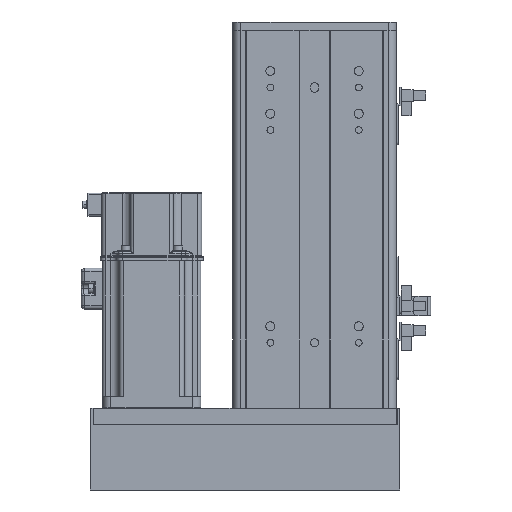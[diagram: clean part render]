
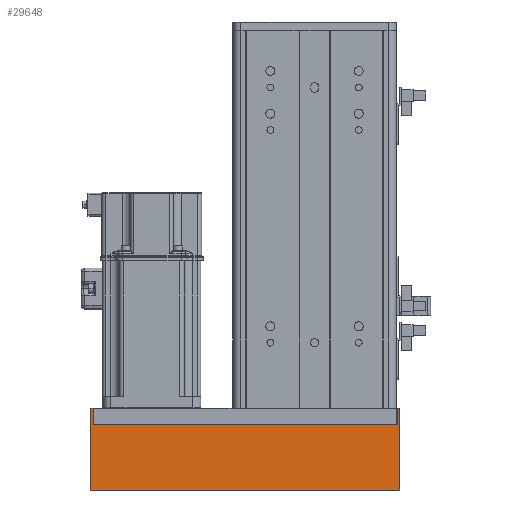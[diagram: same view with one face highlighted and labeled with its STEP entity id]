
A CAD part, front view. The second image highlights one B-rep face of the part: STEP entity #29648.
In plain terms, the highlighted planar face has unit normal (0, -1, 0).
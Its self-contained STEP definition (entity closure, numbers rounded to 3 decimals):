
#1415 = LINE ( 'NONE', #25268, #61065 ) ;
#1940 = VERTEX_POINT ( 'NONE', #5574 ) ;
#2617 = CARTESIAN_POINT ( 'NONE',  ( -94.4, -35.5, 48.4 ) ) ;
#4778 = VECTOR ( 'NONE', #19451, 1000. ) ;
#4982 = DIRECTION ( 'NONE',  ( 0., 0., 1. ) ) ;
#5421 = FACE_OUTER_BOUND ( 'NONE', #51838, .T. ) ;
#5574 = CARTESIAN_POINT ( 'NONE',  ( 94.6, -35.5, 50. ) ) ;
#7689 = DIRECTION ( 'NONE',  ( -1., 0., 0. ) ) ;
#7808 = CARTESIAN_POINT ( 'NONE',  ( -92.8, -35.5, 0. ) ) ;
#8741 = ORIENTED_EDGE ( 'NONE', *, *, #24109, .F. ) ;
#12919 = LINE ( 'NONE', #18530, #4778 ) ;
#14043 = LINE ( 'NONE', #59572, #22998 ) ;
#15329 = CARTESIAN_POINT ( 'NONE',  ( 93., -35.5, 48.4 ) ) ;
#15613 = ORIENTED_EDGE ( 'NONE', *, *, #34095, .F. ) ;
#15755 = DIRECTION ( 'NONE',  ( 0., 0., 1. ) ) ;
#16572 = LINE ( 'NONE', #2617, #36187 ) ;
#17650 = DIRECTION ( 'NONE',  ( 0., 0., 1. ) ) ;
#18530 = CARTESIAN_POINT ( 'NONE',  ( -92.8, -35.5, 0. ) ) ;
#18654 = EDGE_CURVE ( 'NONE', #23965, #1940, #33366, .T. ) ;
#19451 = DIRECTION ( 'NONE',  ( -1., 0., 0. ) ) ;
#19620 = DIRECTION ( 'NONE',  ( 1., 0., 0. ) ) ;
#19691 = CARTESIAN_POINT ( 'NONE',  ( 93., -35.5, 10. ) ) ;
#20283 = VECTOR ( 'NONE', #64967, 1000. ) ;
#21871 = VECTOR ( 'NONE', #19620, 1000. ) ;
#22860 = CARTESIAN_POINT ( 'NONE',  ( 93., -35.5, 0. ) ) ;
#22998 = VECTOR ( 'NONE', #7689, 1000. ) ;
#23965 = VERTEX_POINT ( 'NONE', #48819 ) ;
#24109 = EDGE_CURVE ( 'NONE', #37441, #37344, #60780, .T. ) ;
#25013 = VERTEX_POINT ( 'NONE', #65521 ) ;
#25268 = CARTESIAN_POINT ( 'NONE',  ( 94.6, -35.5, 48.4 ) ) ;
#25298 = CARTESIAN_POINT ( 'NONE',  ( -92.8, -35.5, 50. ) ) ;
#26266 = CARTESIAN_POINT ( 'NONE',  ( -92.8, -35.5, 48.4 ) ) ;
#28930 = CARTESIAN_POINT ( 'NONE',  ( -92.8, -35.5, 0. ) ) ;
#29648 = ADVANCED_FACE ( 'NONE', ( #5421 ), #53223, .F. ) ;
#33366 = LINE ( 'NONE', #25298, #21871 ) ;
#33829 = LINE ( 'NONE', #15329, #49354 ) ;
#34095 = EDGE_CURVE ( 'NONE', #43776, #25013, #12919, .T. ) ;
#36155 = ORIENTED_EDGE ( 'NONE', *, *, #57943, .F. ) ;
#36187 = VECTOR ( 'NONE', #17650, 1000. ) ;
#37344 = VERTEX_POINT ( 'NONE', #22860 ) ;
#37441 = VERTEX_POINT ( 'NONE', #59887 ) ;
#37840 = ORIENTED_EDGE ( 'NONE', *, *, #60144, .F. ) ;
#38884 = CARTESIAN_POINT ( 'NONE',  ( -92.8, -35.5, 48.4 ) ) ;
#39384 = CARTESIAN_POINT ( 'NONE',  ( -92.8, -35.5, 10. ) ) ;
#39880 = LINE ( 'NONE', #38884, #20283 ) ;
#42271 = DIRECTION ( 'NONE',  ( 0., 1., 0. ) ) ;
#42764 = VECTOR ( 'NONE', #60024, 1000. ) ;
#43776 = VERTEX_POINT ( 'NONE', #7808 ) ;
#47784 = EDGE_CURVE ( 'NONE', #37441, #1940, #1415, .T. ) ;
#48819 = CARTESIAN_POINT ( 'NONE',  ( -94.4, -35.5, 50. ) ) ;
#49354 = VECTOR ( 'NONE', #15755, 1000. ) ;
#51838 = EDGE_LOOP ( 'NONE', ( #55057, #8741, #60792, #55234, #37840, #15613, #58893, #36155 ) ) ;
#52548 = DIRECTION ( 'NONE',  ( 0., 0., 1. ) ) ;
#53223 = PLANE ( 'NONE',  #63325 ) ;
#55057 = ORIENTED_EDGE ( 'NONE', *, *, #55827, .F. ) ;
#55234 = ORIENTED_EDGE ( 'NONE', *, *, #18654, .F. ) ;
#55827 = EDGE_CURVE ( 'NONE', #37344, #58563, #33829, .T. ) ;
#56689 = VERTEX_POINT ( 'NONE', #39384 ) ;
#57943 = EDGE_CURVE ( 'NONE', #58563, #56689, #14043, .T. ) ;
#58563 = VERTEX_POINT ( 'NONE', #19691 ) ;
#58893 = ORIENTED_EDGE ( 'NONE', *, *, #64244, .F. ) ;
#59572 = CARTESIAN_POINT ( 'NONE',  ( -92.8, -35.5, 10. ) ) ;
#59887 = CARTESIAN_POINT ( 'NONE',  ( 94.6, -35.5, 0. ) ) ;
#60024 = DIRECTION ( 'NONE',  ( -1., 0., 0. ) ) ;
#60144 = EDGE_CURVE ( 'NONE', #25013, #23965, #16572, .T. ) ;
#60780 = LINE ( 'NONE', #28930, #42764 ) ;
#60792 = ORIENTED_EDGE ( 'NONE', *, *, #47784, .T. ) ;
#61065 = VECTOR ( 'NONE', #4982, 1000. ) ;
#63325 = AXIS2_PLACEMENT_3D ( 'NONE', #26266, #42271, #52548 ) ;
#64244 = EDGE_CURVE ( 'NONE', #56689, #43776, #39880, .T. ) ;
#64967 = DIRECTION ( 'NONE',  ( 0., 0., -1. ) ) ;
#65521 = CARTESIAN_POINT ( 'NONE',  ( -94.4, -35.5, 0. ) ) ;
